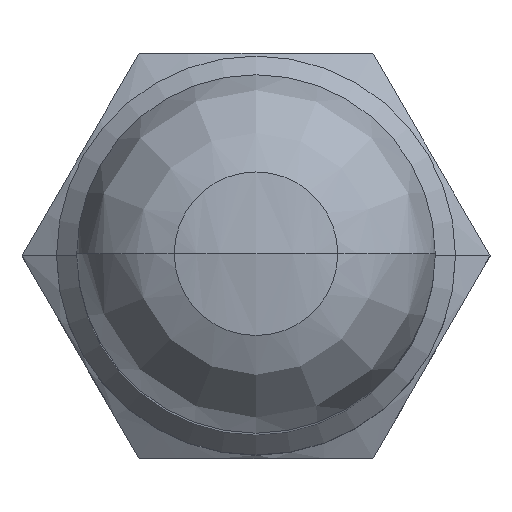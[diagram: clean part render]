
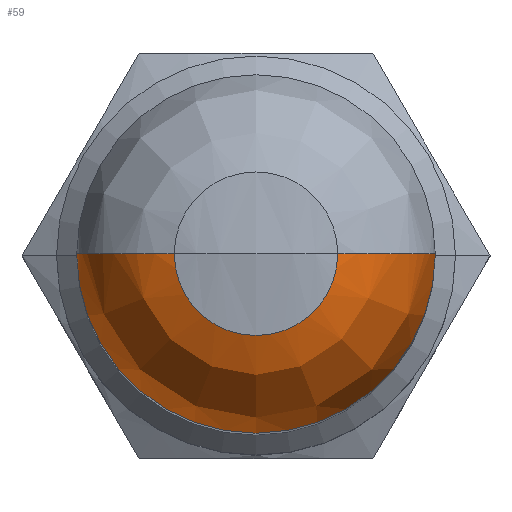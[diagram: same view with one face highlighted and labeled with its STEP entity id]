
A CAD part, top view. The second image highlights one B-rep face of the part: STEP entity #59.
In plain terms, the highlighted free-form (B-spline) face has degree [2, 2] with [5, 5] control points.
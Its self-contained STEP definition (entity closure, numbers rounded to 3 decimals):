
#59=ADVANCED_FACE('',(#258),#257,.T.);
#257=( BOUNDED_SURFACE() B_SPLINE_SURFACE( 2,2,((#480,#481,#482,#483,#484),(#485,#486,#487,#488,#489),(#490,#491,#492,#493,#494),(#495,#496,#497,#498,#499),(#500,#501,#502,#503,#504)), .UNSPECIFIED.,.F.,.F.,.F.) B_SPLINE_SURFACE_WITH_KNOTS((3,2,3),(3,2,3),(-1.999,-0.999,0.),(3.142,4.712,6.283), .UNSPECIFIED. ) GEOMETRIC_REPRESENTATION_ITEM() RATIONAL_B_SPLINE_SURFACE(((1.,0.707,1.,0.707,1.),(0.878,0.621,0.878,0.621,0.878),(1.,0.707,1.,0.707,1.),(0.878,0.621,0.878,0.621,0.878),(1.,0.707,1.,0.707,1.))) REPRESENTATION_ITEM('') SURFACE() );
#258=FACE_OUTER_BOUND('',#505,.T.);
#480=CARTESIAN_POINT('',(0.,0.,121.613));
#481=CARTESIAN_POINT('',(0.,0.,121.613));
#482=CARTESIAN_POINT('',(0.,0.,121.613));
#483=CARTESIAN_POINT('',(0.,0.,121.613));
#484=CARTESIAN_POINT('',(0.,0.,121.613));
#485=CARTESIAN_POINT('',(-4.967,0.,123.879));
#486=CARTESIAN_POINT('',(-4.967,-4.967,123.879));
#487=CARTESIAN_POINT('',(0.,-4.967,123.879));
#488=CARTESIAN_POINT('',(4.967,-4.967,123.879));
#489=CARTESIAN_POINT('',(4.967,0.,123.879));
#490=CARTESIAN_POINT('',(-9.558,0.,120.926));
#491=CARTESIAN_POINT('',(-9.558,-9.558,120.926));
#492=CARTESIAN_POINT('',(0.,-9.558,120.926));
#493=CARTESIAN_POINT('',(9.558,-9.558,120.926));
#494=CARTESIAN_POINT('',(9.558,0.,120.926));
#495=CARTESIAN_POINT('',(-14.15,0.,117.974));
#496=CARTESIAN_POINT('',(-14.15,-14.15,117.974));
#497=CARTESIAN_POINT('',(0.,-14.15,117.974));
#498=CARTESIAN_POINT('',(14.15,-14.15,117.974));
#499=CARTESIAN_POINT('',(14.15,0.,117.974));
#500=CARTESIAN_POINT('',(-14.15,0.,112.515));
#501=CARTESIAN_POINT('',(-14.15,-14.15,112.515));
#502=CARTESIAN_POINT('',(0.,-14.15,112.515));
#503=CARTESIAN_POINT('',(14.15,-14.15,112.515));
#504=CARTESIAN_POINT('',(14.15,0.,112.515));
#505=EDGE_LOOP('',(#642,#643,#644,#645));
#642=ORIENTED_EDGE('',*,*,#709,.F.);
#643=ORIENTED_EDGE('',*,*,#711,.F.);
#644=ORIENTED_EDGE('',*,*,#713,.T.);
#645=ORIENTED_EDGE('',*,*,#712,.T.);
#709=EDGE_CURVE('',#975,#974,#994,.T.);
#711=EDGE_CURVE('',#1001,#975,#1008,.T.);
#712=EDGE_CURVE('',#1000,#974,#1014,.T.);
#713=EDGE_CURVE('',#1001,#1000,#1020,.T.);
#974=VERTEX_POINT('',#1331);
#975=VERTEX_POINT('',#1332);
#994=CIRCLE('',#1344,14.15);
#1000=VERTEX_POINT('',#1345);
#1001=VERTEX_POINT('',#1346);
#1008=(BOUNDED_CURVE() B_SPLINE_CURVE(2,(#1351,#1352,#1353,#1354,#1355),.UNSPECIFIED.,.F.,.F.) B_SPLINE_CURVE_WITH_KNOTS((3,2,3),(-1.341,-0.999,0.),.UNSPECIFIED.) CURVE() GEOMETRIC_REPRESENTATION_ITEM() RATIONAL_B_SPLINE_CURVE((0.945,0.958,1.,0.878,1.)) REPRESENTATION_ITEM('') );
#1014=(BOUNDED_CURVE() B_SPLINE_CURVE(2,(#1356,#1357,#1358,#1359,#1360),.UNSPECIFIED.,.F.,.F.) B_SPLINE_CURVE_WITH_KNOTS((3,2,3),(-1.341,-0.999,0.),.UNSPECIFIED.) CURVE() GEOMETRIC_REPRESENTATION_ITEM() RATIONAL_B_SPLINE_CURVE((0.945,0.958,1.,0.878,1.)) REPRESENTATION_ITEM('') );
#1020=CIRCLE('',#1364,6.456);
#1331=CARTESIAN_POINT('',(-14.15,0.,112.515));
#1332=CARTESIAN_POINT('',(14.15,0.,112.515));
#1341=CARTESIAN_POINT('',(0.,0.,112.515));
#1342=DIRECTION('',(0.,0.,-1.));
#1343=DIRECTION('',(-1.,0.,0.));
#1344=AXIS2_PLACEMENT_3D('',#1341,#1342,#1343);
#1345=CARTESIAN_POINT('',(-6.456,0.,122.246));
#1346=CARTESIAN_POINT('',(6.456,0.,122.246));
#1351=CARTESIAN_POINT('',(6.456,0.,122.246));
#1352=CARTESIAN_POINT('',(8.12,0.,121.851));
#1353=CARTESIAN_POINT('',(9.558,0.,120.926));
#1354=CARTESIAN_POINT('',(14.15,0.,117.974));
#1355=CARTESIAN_POINT('',(14.15,0.,112.515));
#1356=CARTESIAN_POINT('',(-6.456,0.,122.246));
#1357=CARTESIAN_POINT('',(-8.12,0.,121.851));
#1358=CARTESIAN_POINT('',(-9.558,0.,120.926));
#1359=CARTESIAN_POINT('',(-14.15,0.,117.974));
#1360=CARTESIAN_POINT('',(-14.15,0.,112.515));
#1361=CARTESIAN_POINT('',(0.,0.,122.246));
#1362=DIRECTION('',(0.,0.,-1.));
#1363=DIRECTION('',(-1.,0.,0.));
#1364=AXIS2_PLACEMENT_3D('',#1361,#1362,#1363);
